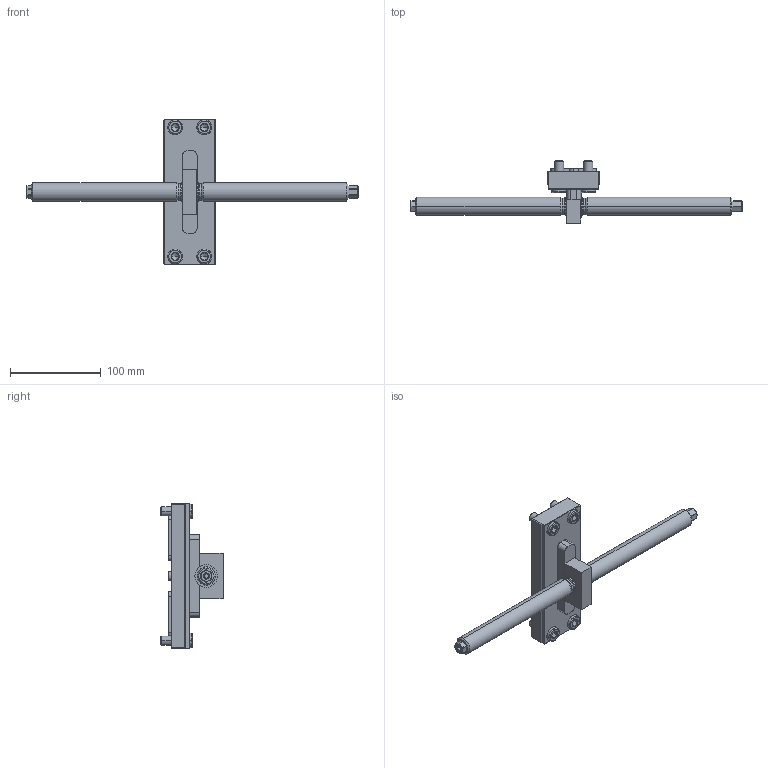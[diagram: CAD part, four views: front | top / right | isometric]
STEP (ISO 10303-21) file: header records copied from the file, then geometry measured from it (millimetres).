
FILE_DESCRIPTION (( 'STEP AP214' ), '1' );
FILE_NAME ('49250-TG.STEP', '2023-02-20T08:55:44', ( '' ), ( '' ), 'SwSTEP 2.0', 'SolidWorks 2021', '' );
FILE_SCHEMA (( 'AUTOMOTIVE_DESIGN' ));
Length unit declared in the file: millimetre
Products named in the file (1): 49250-TG
Bounding box: 365 x 68.2 x 160 mm (x, y, z)
Volume: 331740.4 mm3; surface area: 73160.5 mm2
Topology: 9 solids, 9 shells, 345 faces, 817 edges, 504 vertices
Faces by surface type: plane 156, cylinder 83, cone 74, bspline 24, torus 8
Entity records: 15070 total; most frequent: CARTESIAN_POINT 3219, DIRECTION 1699, ORIENTED_EDGE 1618, EDGE_CURVE 809, AXIS2_PLACEMENT_3D 636, VERTEX_POINT 504, VECTOR 427, LINE 427
